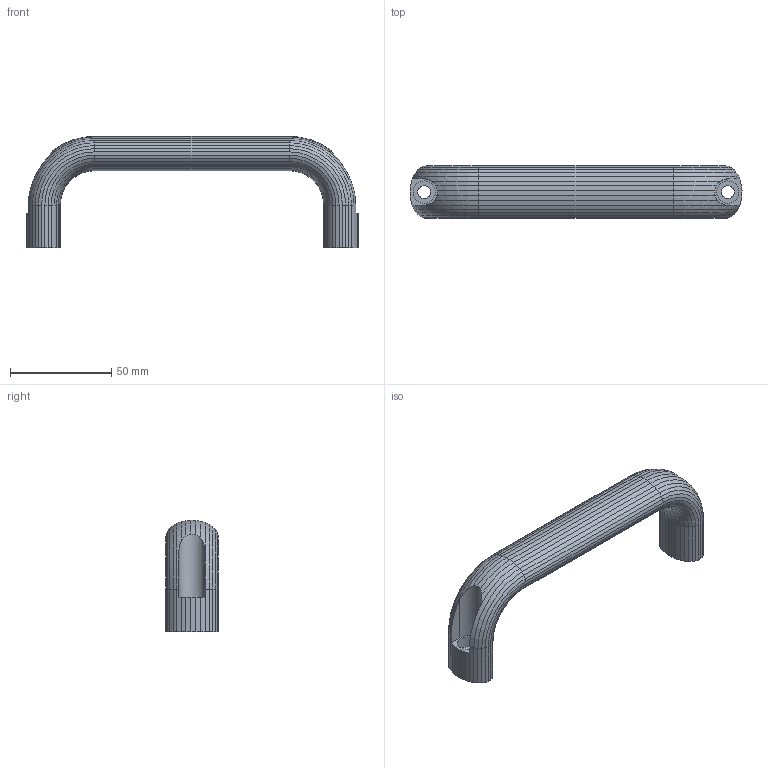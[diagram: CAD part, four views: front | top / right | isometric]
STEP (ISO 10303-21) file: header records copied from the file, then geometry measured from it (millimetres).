
FILE_DESCRIPTION( ( 'STEP AP203' ), '1' );
FILE_NAME( 'C:/3D-Trans/3D_JF-2T+071224.stp', '2007-12-24T02:26:10', ( ' ' ), ( ' ' ), 'XStep 1.0', ' ', ' ' );
FILE_SCHEMA( ( 'CONFIG_CONTROL_DESIGN' ) );
Length unit declared in the file: millimetre
Products named in the file (1): 1
Bounding box: 163.98 x 25.94 x 54.99 mm (x, y, z)
Volume: 66785 mm3; surface area: 17259.9 mm2
Topology: 1 solids, 1 shells, 177 faces, 407 edges, 234 vertices
Faces by surface type: plane 107, cone 64, cylinder 6
Full cylindrical faces by diameter (mm): 6.3 x2, 11 x2
Entity records: 4869 total; most frequent: CARTESIAN_POINT 879, DIRECTION 823, ORIENTED_EDGE 798, EDGE_CURVE 399, LINE 307, VECTOR 307, AXIS2_PLACEMENT_3D 258, VERTEX_POINT 230
